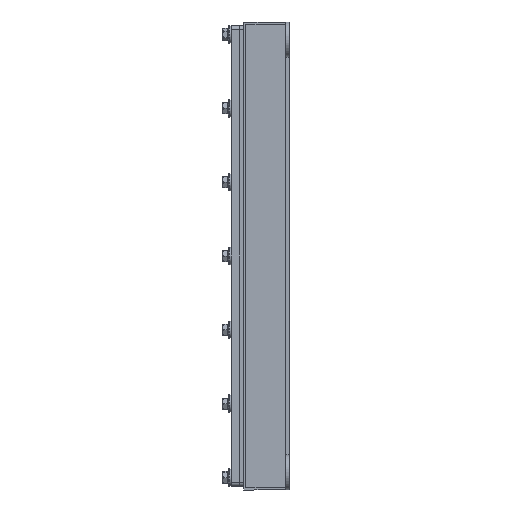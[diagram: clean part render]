
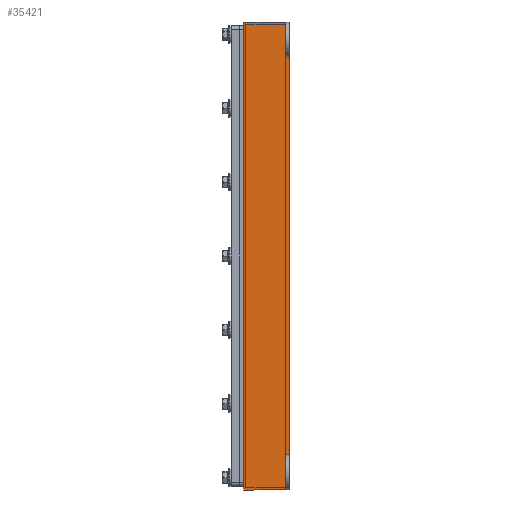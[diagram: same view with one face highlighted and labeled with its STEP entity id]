
A CAD part, left-side view. The second image highlights one B-rep face of the part: STEP entity #35421.
In plain terms, the highlighted planar face has unit normal (-1, 0, 0).
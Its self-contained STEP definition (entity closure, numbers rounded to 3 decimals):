
#23442 = CARTESIAN_POINT ( 'NONE',  ( -169.799, 33.02, -169.799 ) ) ;
#23457 = CARTESIAN_POINT ( 'NONE',  ( -169.799, 33.02, 169.799 ) ) ;
#23460 = DIRECTION ( 'NONE',  ( 0., 0., 1. ) ) ;
#23462 = VECTOR ( 'NONE', #23460, 1000. ) ;
#23468 = CARTESIAN_POINT ( 'NONE',  ( -169.799, 33.02, 0. ) ) ;
#23493 = LINE ( 'NONE', #23468, #23462 ) ;
#23510 = DIRECTION ( 'NONE',  ( 0., 0., -1. ) ) ;
#23511 = VECTOR ( 'NONE', #23510, 1000. ) ;
#23521 = CARTESIAN_POINT ( 'NONE',  ( -169.799, 2.667, 144.399 ) ) ;
#23531 = CARTESIAN_POINT ( 'NONE',  ( -169.799, 2.667, 0. ) ) ;
#23533 = LINE ( 'NONE', #23531, #23511 ) ;
#23622 = CARTESIAN_POINT ( 'NONE',  ( -169.799, 2.667, 169.799 ) ) ;
#23656 = DIRECTION ( 'NONE',  ( 0., 0., -1. ) ) ;
#23666 = CARTESIAN_POINT ( 'NONE',  ( -169.799, 2.667, -144.399 ) ) ;
#23667 = VECTOR ( 'NONE', #23656, 1000. ) ;
#23669 = CARTESIAN_POINT ( 'NONE',  ( -169.799, 2.667, 0. ) ) ;
#23670 = LINE ( 'NONE', #23669, #23667 ) ;
#23708 = CARTESIAN_POINT ( 'NONE',  ( -169.799, 2.667, -169.799 ) ) ;
#23805 = DIRECTION ( 'NONE',  ( 0., 1., 0. ) ) ;
#23806 = VECTOR ( 'NONE', #23805, 1000. ) ;
#23807 = CARTESIAN_POINT ( 'NONE',  ( -169.799, 1.333, -169.799 ) ) ;
#23809 = LINE ( 'NONE', #23807, #23806 ) ;
#23982 = CARTESIAN_POINT ( 'NONE',  ( -169.799, 1.334, 144.399 ) ) ;
#23984 = LINE ( 'NONE', #23982, #24048 ) ;
#23997 = CARTESIAN_POINT ( 'NONE',  ( -169.799, 0., 144.399 ) ) ;
#24037 = DIRECTION ( 'NONE',  ( 0., 0., 1. ) ) ;
#24039 = VECTOR ( 'NONE', #24037, 1000. ) ;
#24041 = CARTESIAN_POINT ( 'NONE',  ( -169.799, 0., 0. ) ) ;
#24042 = LINE ( 'NONE', #24041, #24039 ) ;
#24047 = DIRECTION ( 'NONE',  ( 0., 1., 0. ) ) ;
#24048 = VECTOR ( 'NONE', #24047, 1000. ) ;
#24222 = DIRECTION ( 'NONE',  ( 0., -1., 0. ) ) ;
#24224 = DIRECTION ( 'NONE',  ( 1., 0., 0. ) ) ;
#24226 = CARTESIAN_POINT ( 'NONE',  ( -169.799, 1.333, 0. ) ) ;
#24227 = AXIS2_PLACEMENT_3D ( 'NONE', #24226, #24224, #24222 ) ;
#24240 = DIRECTION ( 'NONE',  ( 0., 1., 0. ) ) ;
#24242 = VECTOR ( 'NONE', #24240, 1000. ) ;
#24243 = CARTESIAN_POINT ( 'NONE',  ( -169.799, 1.334, 169.799 ) ) ;
#24250 = DIRECTION ( 'NONE',  ( 0., 1., 0. ) ) ;
#24252 = VECTOR ( 'NONE', #24250, 1000. ) ;
#24253 = CARTESIAN_POINT ( 'NONE',  ( -169.799, 1.333, -144.399 ) ) ;
#24255 = LINE ( 'NONE', #24253, #24252 ) ;
#24264 = CARTESIAN_POINT ( 'NONE',  ( -169.799, 0., -144.399 ) ) ;
#24269 = FACE_OUTER_BOUND ( 'NONE', #35362, .T. ) ;
#24272 = PLANE ( 'NONE',  #24227 ) ;
#24279 = LINE ( 'NONE', #24243, #24242 ) ;
#35169 = EDGE_CURVE ( 'NONE', #35189, #35197, #23493, .T. ) ;
#35189 = VERTEX_POINT ( 'NONE', #23442 ) ;
#35197 = VERTEX_POINT ( 'NONE', #23457 ) ;
#35219 = VERTEX_POINT ( 'NONE', #23521 ) ;
#35220 = EDGE_CURVE ( 'NONE', #35234, #35219, #23533, .T. ) ;
#35234 = VERTEX_POINT ( 'NONE', #23622 ) ;
#35258 = VERTEX_POINT ( 'NONE', #23666 ) ;
#35259 = VERTEX_POINT ( 'NONE', #23708 ) ;
#35261 = EDGE_CURVE ( 'NONE', #35258, #35259, #23670, .T. ) ;
#35300 = EDGE_CURVE ( 'NONE', #35259, #35189, #23809, .T. ) ;
#35341 = EDGE_CURVE ( 'NONE', #35361, #35219, #23984, .T. ) ;
#35342 = EDGE_CURVE ( 'NONE', #35416, #35361, #24042, .T. ) ;
#35343 = ORIENTED_EDGE ( 'NONE', *, *, #35220, .F. ) ;
#35344 = ORIENTED_EDGE ( 'NONE', *, *, #35341, .T. ) ;
#35358 = ORIENTED_EDGE ( 'NONE', *, *, #35342, .T. ) ;
#35361 = VERTEX_POINT ( 'NONE', #23997 ) ;
#35362 = EDGE_LOOP ( 'NONE', ( #35358, #35344, #35343, #35402, #35405, #35404, #35407, #35403 ) ) ;
#35402 = ORIENTED_EDGE ( 'NONE', *, *, #35418, .T. ) ;
#35403 = ORIENTED_EDGE ( 'NONE', *, *, #35417, .F. ) ;
#35404 = ORIENTED_EDGE ( 'NONE', *, *, #35300, .F. ) ;
#35405 = ORIENTED_EDGE ( 'NONE', *, *, #35169, .F. ) ;
#35407 = ORIENTED_EDGE ( 'NONE', *, *, #35261, .F. ) ;
#35416 = VERTEX_POINT ( 'NONE', #24264 ) ;
#35417 = EDGE_CURVE ( 'NONE', #35416, #35258, #24255, .T. ) ;
#35418 = EDGE_CURVE ( 'NONE', #35234, #35197, #24279, .T. ) ;
#35421 = ADVANCED_FACE ( 'NONE', ( #24269 ), #24272, .F. ) ;
